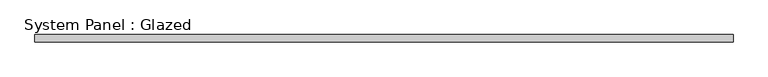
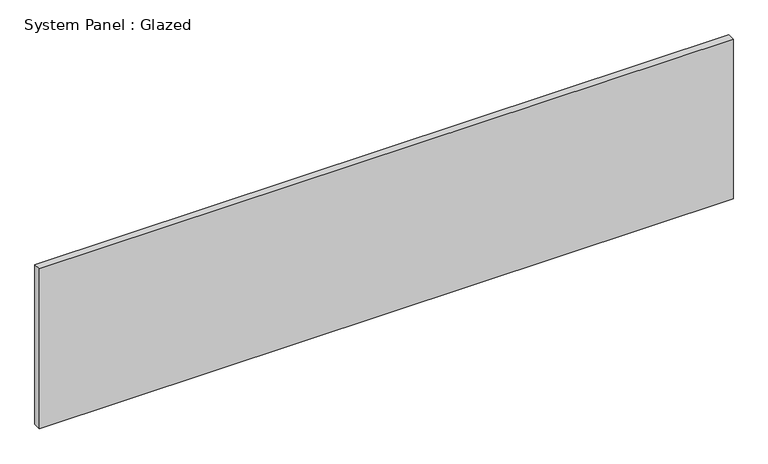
"""IFC4 building model written with IfcOpenShell, lengths in millimetres: plate geometry, System Panel : Glazed."""

from ifc_helpers import new_model, si_unit, origin, origin_with_axes, place, context, project, spatial, polyline, outline, extrude, source, transform, mapped, element, save


def system_panel_glazed_36969878(model_context):
    return source(origin(), model_context, "Body", "SweptSolid", [
        extrude(outline(polyline([(1187.45, -44.45), (-1187.45, -44.45), (-1187.45, -19.05), (1187.45, -19.05), (1187.45, -44.45)])), origin_with_axes(), (0.0, 0.0, 1.0), 577.85),
    ])


if __name__ == "__main__":
    model = new_model("IFC4")
    model_context = context("Model", 3, world=origin())
    ifc_project = project(units=[si_unit("LENGTHUNIT", "METRE", prefix="MILLI")], contexts=[model_context])
    site = spatial("IfcSite", under=ifc_project)
    building = spatial("IfcBuilding", under=site)
    placement = place(None, origin())
    system_panel_glazed_shape = system_panel_glazed_36969878(model_context)
    element("IfcPlate", 1, ObjectType="System Panel : Glazed", at=placement, inside=building, context=model_context, shape_type="MappedRepresentation", body=[
        mapped(system_panel_glazed_shape, transform((0.0, 0.0, 0.0), x_axis=(1.0, 0.0, 0.0), y_axis=(0.0, 1.0, 0.0), z_axis=(0.0, 0.0, 1.0))),
    ])
    save(model, "model.ifc")
